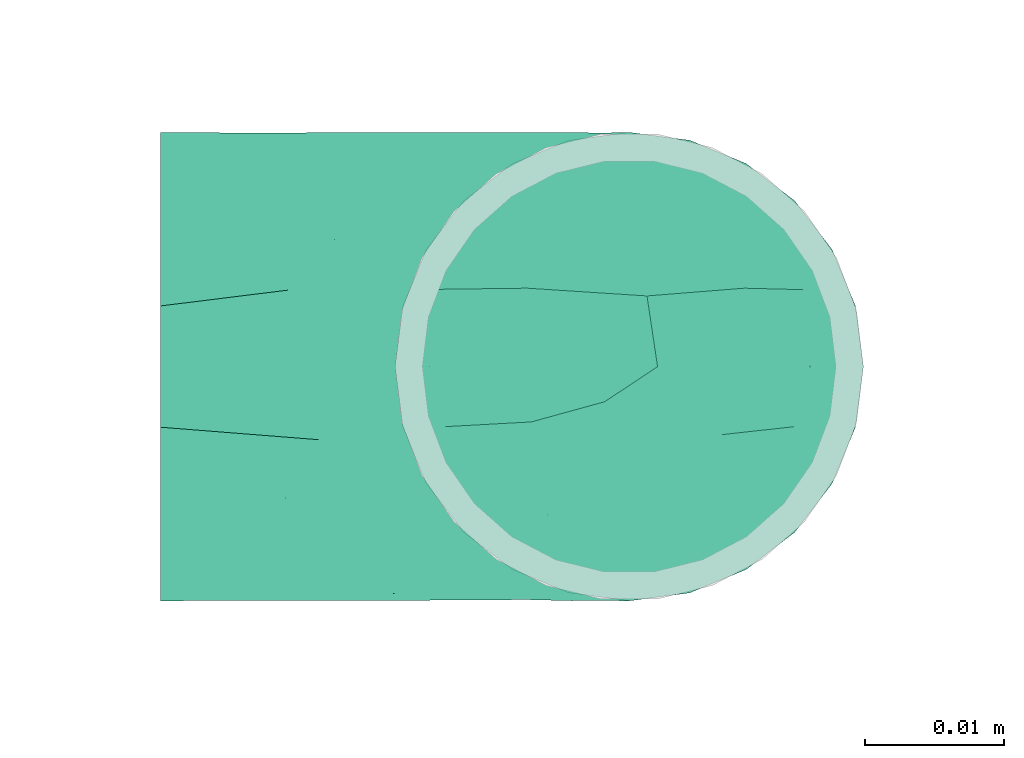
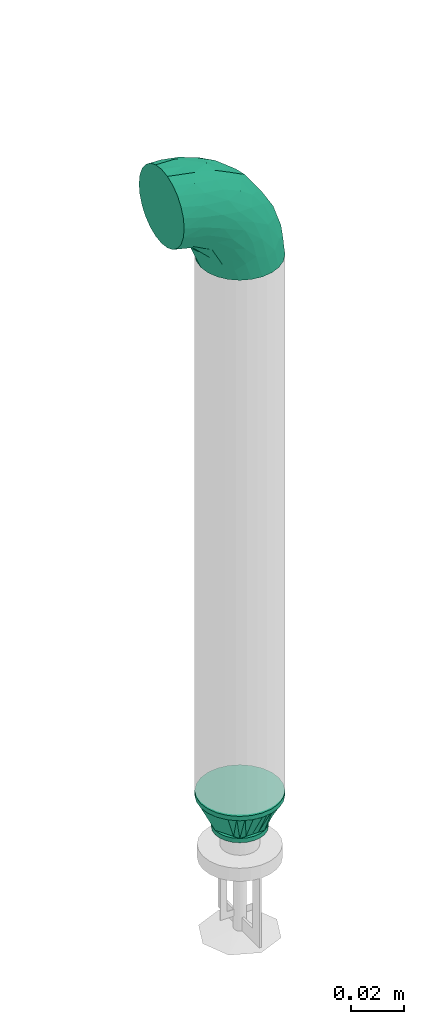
# One storey, part 72 of 157: 2 flow fittings.
"""IFC2X3 building model written with IfcOpenShell, lengths in millimetres."""

from ifc_helpers import new_model, entity, si_unit, converted_unit, derived_unit, direction, frame, origin_with_axes, place, context, subcontext, project, spatial, open_shell, surface_model, source, transform, mapped, type_object, element, save


model = new_model("IFC2X3")

# Units and contexts
model_context = context("Model", 3, precision=0.01, world=frame((0.0, 4.29681676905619e-09, 0.0)), true_north=direction((4.01073788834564e-13, 1.0)))
plan_context = context("Plan", 3, precision=0.01, world=frame((0.0, 4.29681676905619e-09, 0.0)), true_north=direction((4.01073788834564e-13, 1.0)))
body_context = subcontext(model_context, "Body", "Model", "MODEL_VIEW")
ifc_project = project(units=[converted_unit("PLANEANGLEUNIT", "DEGREE", entity("IfcPositiveLengthMeasure", 0.0174532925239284), si_unit("PLANEANGLEUNIT", "RADIAN"), dimensions=[0, 0, 0, 0, 0, 0, 0]), si_unit("AREAUNIT", "SQUARE_METRE"), si_unit("LENGTHUNIT", "METRE", prefix="MILLI"), si_unit("MASSUNIT", "GRAM", prefix="KILO"), si_unit("POWERUNIT", "WATT"), si_unit("PRESSUREUNIT", "PASCAL"), si_unit("FORCEUNIT", "NEWTON", prefix="KILO"), si_unit("ELECTRICCURRENTUNIT", "AMPERE"), si_unit("THERMODYNAMICTEMPERATUREUNIT", "DEGREE_CELSIUS"), si_unit("TIMEUNIT", "SECOND"), si_unit("VOLUMEUNIT", "CUBIC_METRE"), derived_unit("LINEARVELOCITYUNIT", [(si_unit("LENGTHUNIT", "METRE"), 1), (si_unit("TIMEUNIT", "SECOND"), -1)]), derived_unit("VOLUMETRICFLOWRATEUNIT", [(si_unit("VOLUMEUNIT", "CUBIC_METRE"), 1), (si_unit("TIMEUNIT", "SECOND"), -1)]), derived_unit("THERMALTRANSMITTANCEUNIT", [(si_unit("POWERUNIT", "WATT"), 1), (si_unit("THERMODYNAMICTEMPERATUREUNIT", "KELVIN"), -1), (si_unit("AREAUNIT", "SQUARE_METRE"), -1)])], contexts=[model_context, plan_context])

# Site, building, storey
site_placement = place(None, frame((0.0, -4.29681676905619e-09, 0.0), z_axis=(0.0, 0.0, 1.0), x_axis=(1.0, 0.0, 0.0)))
site = spatial("IfcSite", under=ifc_project, at=site_placement, CompositionType="ELEMENT")
building_placement = place(site_placement, frame((0.0, 4.29681676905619e-09, 0.0), z_axis=(0.0, 0.0, 1.0), x_axis=(1.0, 0.0, 0.0)))
building = spatial("IfcBuilding", under=site, at=building_placement, Name="mc-building", CompositionType="ELEMENT")
storey_placement = place(building_placement, frame((0.0, 0.0, 204000.0), z_axis=(0.0, 0.0, 1.0), x_axis=(1.0, 0.0, 0.0)))
storey = spatial("IfcBuildingStorey", under=building, at=storey_placement, Name="Nivå D", CompositionType="ELEMENT", Elevation=204000.0)

# Flow fittings
pipe_fitting_type_1 = type_object("IfcPipeFittingType", Name="magi_pipe_fe_elbow_short_001", PredefinedType="BEND")
shared_shape_1 = source(origin_with_axes(), body_context, "Body", "SurfaceModel", [
    surface_model("IfcShellBasedSurfaceModel", [(-33.8, 8.45, -14.63583), (-33.8, 4.37404, -16.32415), (-33.8, 11.9501, -11.9501), (-33.8, -11.9501, -11.9501), (-33.8, -14.63583, -8.45), (-33.8, -8.45, -14.63583), (-33.8, 0.0, -16.9), (-33.8, -4.37404, -16.32415), (-33.8, -4.37404, 16.32415), (-33.8, 0.0, 16.9), (-33.8, -8.45, 14.63583), (-33.8, 16.32415, -4.37404), (-33.8, 14.63583, -8.45), (-33.8, -16.32415, -4.37404), (-33.8, -16.9, 0.0), (-33.8, -16.32415, 4.37404), (-33.8, 11.9501, 11.9501), (-33.8, 14.63583, 8.45), (-33.8, 16.32415, 4.37404), (-33.8, 4.37404, 16.32415), (-33.8, 8.45, 14.63583), (-33.8, -14.63583, 8.45), (-33.8, -11.9501, 11.9501), (-33.8, 16.9, 0.0), (-11.9501, 33.8, -11.9501), (0.0, 33.8, -16.9), (-4.37404, 33.8, -16.32415), (-8.45, 33.8, -14.63583), (-14.63583, 33.8, -8.45), (-16.32415, 33.8, -4.37404), (14.63583, 33.8, -8.45), (8.45, 33.8, 14.63583), (16.32415, 33.8, -4.37404), (8.45, 33.8, -14.63583), (11.9501, 33.8, -11.9501), (4.37404, 33.8, -16.32415), (16.32415, 33.8, 4.37404), (16.9, 33.8, 0.0), (-11.9501, 33.8, 11.9501), (-16.32415, 33.8, 4.37404), (-14.63583, 33.8, 8.45), (-8.45, 33.8, 14.63583), (-4.37404, 33.8, 16.32415), (11.9501, 33.8, 11.9501), (14.63583, 33.8, 8.45), (0.0, 33.8, 16.9), (4.37404, 33.8, 16.32415), (-16.9, 33.8, 0.0), (-24.79389, -13.12945, 9.48721), (-22.19287, -9.75018, 12.59315), (-24.09897, -14.97035, 0.0), (-14.93934, -10.76256, 8.5297), (-22.46095, -14.75051, 5.27077), (14.75051, 22.46094, 5.27077), (11.9251, 13.23888, 4.33236), (13.04069, 14.39795, 0.0), (7.71387, 13.68847, 11.55891), (9.75018, 22.19287, 12.59315), (4.10169, 13.0571, 14.04018), (-24.84007, -6.39063, 15.2048), (-25.81779, -2.23879, 16.61097), (-23.66549, 2.59054, 16.87119), (-26.50418, 14.06512, 11.08152), (-24.21253, 17.66365, 7.72657), (-29.58514, 15.86957, 7.00283), (-6.17382, -7.5455, 0.0), (-13.23888, -11.9251, 4.33236), (-14.39795, -13.04069, 0.0), (-17.81434, 18.87373, 11.97104), (-6.30846, 29.15138, 15.82987), (-2.31622, 25.28002, 16.85849), (-29.23923, 10.23435, 13.77053), (-1.45439, -2.85688, 7.61475), (-0.28326, 0.34872, 10.09509), (-5.74484, -4.04709, 10.4122), (-4.41137, 11.31918, 16.59407), (-8.39727, 3.10034, 15.7812), (-1.72649, 9.1306, 15.53089), (-17.39909, 24.75344, 7.64977), (-26.19233, 20.0512, 0.0), (-28.14518, 17.29657, 4.25857), (-26.05147, 6.6281, 15.96447), (-5.87354, 16.61944, 16.86968), (-12.51807, 12.51807, 16.48937), (-10.06312, 7.38516, 16.81295), (-3.01882, 3.01882, 13.81718), (-13.0571, -4.10169, 14.04018), (-16.82553, -0.15166, 16.38038), (10.76256, 14.93934, 8.5297), (13.12945, 24.79389, 9.48721), (6.39063, 24.84007, 15.2048), (2.23879, 25.81779, 16.61097), (-13.68847, -7.71387, 11.55891), (14.97035, 24.09897, 0.0), (-7.30894, 22.89991, 16.09489), (-10.67958, 26.17414, 14.008), (-12.78295, 18.26924, 15.06066), (-13.88562, 22.45231, 12.93244), (-18.04944, 15.16501, 14.04434), (-23.11658, 20.08178, 4.02986), (-21.84989, 21.84989, 0.0), (-18.55817, 25.48277, 3.93065), (-13.95142, 26.94732, 11.03289), (-18.57098, 7.23906, 16.59756), (-16.58335, 4.14122, 16.89279), (-17.96666, 11.46709, 15.63151), (-9.84453, 17.54304, 16.18938), (0.15166, 16.82553, 16.38038), (-23.27207, 11.47201, 14.23154), (3.84842, 5.86994, 10.70473), (-8.0212, -7.54413, 7.93275), (1.00345, -2.19508, 4.57414), (5.13203, 3.01004, 5.90201), (5.24161, 1.7543, 2.53265), (8.70457, 7.04947, 3.99182), (-20.0512, 26.19233, 0.0), (8.4852, 8.76699, 7.09296), (-4.55488, -6.72064, 4.90681), (2.05031, -2.05031, 0.0), (7.5455, 6.17382, 0.0), (-26.75399, 2.1369, -16.845), (-14.61995, 24.73803, -11.27736), (-28.45274, -13.45335, -9.81895), (-26.00469, 6.63555, -15.96645), (-23.06726, 20.04573, -4.26202), (-13.80647, -4.26506, -14.17873), (-14.67501, -0.21081, -16.07388), (-6.7902, -0.2828, -13.8478), (-24.53586, 11.08096, -14.13417), (-26.72048, 14.00837, -11.05776), (10.0967, 24.44989, -12.75976), (5.83237, 21.40218, -15.03047), (6.66249, 28.54238, -15.38093), (-20.38182, 15.48705, -12.74596), (12.53268, 21.23441, -9.15363), (12.54494, 15.67504, -5.54878), (9.7522, 12.89279, -8.66343), (-15.65186, 19.64213, -13.01327), (-12.03528, 20.66498, -14.67665), (-15.61907, 15.61906, -14.83879), (-25.56551, -15.26206, 0.0), (-24.65452, -15.12934, -5.50955), (13.45335, 28.45274, -9.81895), (15.12934, 24.65452, -5.50955), (-7.35442, -8.31014, -5.65563), (-15.67504, -12.54494, -5.54878), (-24.44989, -10.0967, -12.75976), (0.16522, 0.41303, -9.71728), (-5.70658, -5.33066, -8.89288), (-5.13869, -2.37198, -11.53565), (-21.23441, -12.53268, -9.15363), (0.71146, 7.93863, -14.09382), (0.21081, 14.67501, -16.07388), (3.49291, 14.42772, -14.76381), (-24.89911, -2.13088, -16.591), (-28.54238, -6.66249, -15.38093), (-18.44386, -7.71663, -13.26957), (2.13088, 24.89911, -16.591), (-28.64342, 17.44413, -2.89318), (1.70017, -1.28722, -5.09504), (-16.57067, 26.81947, -7.36596), (-17.69055, 27.4263, -3.76405), (-12.89279, -9.7522, -8.66343), (-5.96611, 5.96611, -15.95814), (-20.53709, 20.09345, -8.28985), (-2.1369, 26.75399, -16.845), (-6.89872, 24.58781, -16.02578), (-10.60739, 26.53157, -13.98044), (-21.40218, -5.83237, -15.03047), (2.93192, 5.89627, -11.55917), (6.89393, 12.61842, -11.82233), (5.58056, 5.95325, -8.79455), (-3.99512, 18.61798, -16.89635), (8.31014, 7.35442, -5.65563), (-9.1383, 9.86148, -16.89041), (-9.99983, 16.02119, -16.39699), (-16.68576, 9.78031, -16.34199), (-27.01915, 16.61158, -7.12979), (15.26206, 25.56551, 0.0), (-18.61798, 3.99512, -16.89635), (-19.37495, 27.82495, 0.0), (-12.61842, -6.89393, -11.82233), (-18.84705, 19.14018, -10.96545)], [open_shell([[[0, 1, 2]], [[3, 4, 5]], [[6, 7, 5]], [[8, 9, 10]], [[1, 6, 2]], [[11, 12, 2]], [[4, 2, 6]], [[2, 13, 10]], [[5, 4, 6]], [[2, 4, 13]], [[14, 15, 13]], [[11, 2, 16]], [[11, 17, 18]], [[11, 16, 17]], [[19, 20, 16]], [[16, 2, 10]], [[19, 16, 10]], [[21, 22, 15]], [[22, 13, 15]], [[22, 10, 13]], [[10, 9, 19]], [[11, 18, 23]], [[24, 25, 26]], [[24, 26, 27]], [[24, 28, 29]], [[25, 24, 30]], [[31, 32, 24]], [[33, 30, 34]], [[33, 35, 25]], [[25, 30, 33]], [[32, 30, 24]], [[32, 36, 37]], [[38, 24, 29]], [[39, 40, 29]], [[40, 38, 29]], [[38, 41, 42]], [[38, 31, 24]], [[31, 38, 42]], [[36, 43, 44]], [[36, 32, 43]], [[31, 45, 46]], [[32, 31, 43]], [[42, 45, 31]], [[39, 29, 47]], [[22, 48, 49]], [[15, 14, 50]], [[51, 48, 52]], [[53, 54, 55]], [[48, 22, 21]], [[15, 52, 21]], [[56, 57, 58]], [[49, 10, 22]], [[49, 59, 10]], [[9, 60, 61]], [[62, 63, 64]], [[65, 66, 67]], [[57, 43, 31]], [[62, 68, 63]], [[42, 69, 70]], [[20, 71, 16]], [[8, 60, 9]], [[72, 73, 74]], [[75, 76, 77]], [[16, 62, 17]], [[40, 39, 78]], [[79, 23, 80]], [[64, 18, 17]], [[9, 61, 19]], [[19, 81, 20]], [[82, 83, 84]], [[74, 85, 86]], [[59, 86, 87]], [[88, 89, 57]], [[90, 31, 46]], [[44, 53, 36]], [[46, 45, 91]], [[54, 53, 88]], [[44, 89, 53]], [[92, 86, 49]], [[89, 44, 43]], [[10, 59, 8]], [[53, 55, 93]], [[93, 36, 53]], [[66, 52, 67]], [[94, 82, 70]], [[95, 96, 94]], [[97, 98, 96]], [[79, 99, 100]], [[41, 38, 95]], [[101, 100, 99]], [[68, 78, 63]], [[42, 41, 69]], [[23, 18, 80]], [[95, 94, 69]], [[78, 101, 99]], [[38, 102, 95]], [[70, 45, 42]], [[97, 95, 102]], [[15, 50, 52]], [[90, 57, 31]], [[57, 90, 58]], [[81, 19, 61]], [[103, 104, 84]], [[105, 81, 103]], [[38, 40, 102]], [[106, 96, 83]], [[94, 106, 82]], [[91, 70, 107]], [[71, 62, 16]], [[62, 108, 98]], [[86, 59, 49]], [[67, 52, 50]], [[60, 59, 87]], [[92, 49, 51]], [[86, 85, 76]], [[91, 90, 46]], [[37, 36, 93]], [[107, 77, 58]], [[107, 58, 90]], [[58, 85, 109]], [[110, 74, 92]], [[72, 74, 110]], [[66, 51, 52]], [[72, 111, 112]], [[113, 114, 112]], [[56, 88, 57]], [[52, 48, 21]], [[49, 48, 51]], [[57, 89, 43]], [[53, 89, 88]], [[103, 81, 61]], [[71, 81, 108]], [[18, 64, 80]], [[63, 78, 99]], [[47, 115, 101]], [[101, 115, 100]], [[40, 78, 102]], [[68, 102, 78]], [[97, 96, 95]], [[105, 98, 108]], [[103, 84, 83]], [[107, 70, 82]], [[76, 84, 87]], [[82, 84, 75]], [[70, 91, 45]], [[90, 91, 107]], [[59, 60, 8]], [[61, 60, 87]], [[73, 85, 74]], [[109, 112, 116]], [[103, 61, 104]], [[105, 103, 83]], [[96, 105, 83]], [[81, 105, 108]], [[96, 98, 105]], [[62, 98, 68]], [[61, 87, 104]], [[87, 84, 104]], [[86, 76, 87]], [[77, 76, 85]], [[58, 77, 85]], [[75, 77, 107]], [[82, 75, 107]], [[76, 75, 84]], [[81, 71, 20]], [[62, 71, 108]], [[95, 69, 41]], [[70, 69, 94]], [[62, 64, 17]], [[80, 63, 99]], [[63, 80, 64]], [[80, 99, 79]], [[66, 65, 117]], [[110, 66, 117]], [[112, 114, 116]], [[118, 117, 65]], [[110, 92, 51]], [[112, 111, 113]], [[119, 55, 54]], [[74, 86, 92]], [[58, 109, 56]], [[116, 56, 109]], [[66, 110, 51]], [[72, 110, 117]], [[111, 72, 117]], [[73, 112, 109]], [[117, 118, 111]], [[113, 111, 118]], [[118, 119, 113]], [[114, 119, 54]], [[119, 114, 113]], [[116, 54, 88]], [[54, 116, 114]], [[116, 88, 56]], [[112, 73, 72]], [[85, 73, 109]], [[78, 39, 101]], [[47, 101, 39]], [[102, 68, 97]], [[97, 68, 98]], [[82, 106, 83]], [[94, 96, 106]], [[1, 120, 6]], [[28, 24, 121]], [[3, 122, 4]], [[0, 123, 1]], [[100, 124, 79]], [[125, 126, 127]], [[128, 2, 129]], [[130, 131, 132]], [[128, 129, 133]], [[134, 135, 136]], [[137, 138, 139]], [[128, 0, 2]], [[67, 140, 141]], [[134, 142, 143]], [[141, 13, 4]], [[144, 65, 145]], [[146, 3, 5]], [[147, 148, 149]], [[145, 141, 150]], [[151, 152, 153]], [[154, 7, 6]], [[5, 155, 146]], [[150, 146, 156]], [[155, 5, 7]], [[143, 135, 134]], [[35, 157, 25]], [[23, 79, 158]], [[148, 159, 144]], [[160, 161, 29]], [[145, 162, 144]], [[163, 152, 151]], [[29, 28, 160]], [[121, 164, 160]], [[33, 34, 130]], [[25, 165, 26]], [[26, 165, 166]], [[142, 34, 30]], [[24, 27, 167]], [[124, 161, 164]], [[157, 35, 132]], [[155, 154, 168]], [[123, 0, 128]], [[169, 170, 171]], [[172, 157, 152]], [[26, 166, 27]], [[132, 35, 33]], [[142, 130, 34]], [[168, 154, 126]], [[136, 135, 173]], [[133, 137, 139]], [[2, 12, 129]], [[170, 131, 130]], [[30, 32, 143]], [[172, 174, 175]], [[176, 123, 128]], [[158, 177, 11]], [[135, 55, 119]], [[167, 27, 166]], [[175, 166, 172]], [[137, 167, 138]], [[122, 141, 4]], [[140, 14, 13]], [[32, 37, 178]], [[170, 130, 134]], [[152, 157, 131]], [[165, 157, 172]], [[153, 170, 151]], [[152, 163, 174]], [[168, 125, 156]], [[122, 146, 150]], [[120, 154, 6]], [[179, 174, 126]], [[179, 126, 154]], [[126, 163, 127]], [[162, 145, 150]], [[140, 13, 141]], [[32, 178, 143]], [[55, 143, 178]], [[177, 129, 12]], [[128, 133, 139]], [[176, 128, 139]], [[120, 123, 179]], [[121, 160, 28]], [[161, 100, 180]], [[166, 175, 138]], [[121, 24, 167]], [[161, 47, 29]], [[79, 124, 158]], [[124, 164, 177]], [[161, 124, 100]], [[136, 171, 170]], [[127, 163, 151]], [[147, 171, 159]], [[148, 144, 162]], [[127, 151, 169]], [[127, 181, 125]], [[129, 177, 164]], [[12, 11, 177]], [[159, 65, 144]], [[67, 141, 145]], [[143, 55, 135]], [[135, 119, 173]], [[123, 120, 1]], [[154, 120, 179]], [[157, 165, 25]], [[166, 165, 172]], [[172, 152, 174]], [[176, 139, 175]], [[126, 174, 163]], [[176, 174, 179]], [[174, 176, 175]], [[123, 176, 179]], [[150, 181, 162]], [[127, 149, 181]], [[181, 148, 162]], [[159, 148, 147]], [[171, 136, 173]], [[170, 134, 136]], [[159, 171, 173]], [[171, 147, 169]], [[169, 147, 149]], [[151, 170, 169]], [[164, 182, 129]], [[182, 121, 137]], [[181, 149, 148]], [[169, 149, 127]], [[182, 137, 133]], [[167, 137, 121]], [[166, 138, 167]], [[175, 139, 138]], [[129, 182, 133]], [[121, 182, 164]], [[161, 160, 164]], [[47, 161, 180]], [[177, 158, 124]], [[23, 158, 11]], [[130, 132, 33]], [[157, 132, 131]], [[143, 142, 30]], [[130, 142, 134]], [[154, 155, 7]], [[146, 155, 168]], [[146, 122, 3]], [[141, 122, 150]], [[152, 131, 153]], [[159, 119, 118]], [[67, 145, 65]], [[170, 153, 131]], [[119, 159, 173]], [[159, 118, 65]], [[156, 125, 181]], [[126, 125, 168]], [[150, 156, 181]], [[168, 156, 146]]])]),
])
flow_fitting_1_placement = place(storey_placement, frame((518179.00142, 415184.37004, 2690.0), z_axis=(0.0, -1.0, 0.0), x_axis=(0.0, 0.0, 1.0)))
element("IfcFlowFitting", 1, at=flow_fitting_1_placement, inside=storey, type_object=pipe_fitting_type_1, Name="magi_pipe_fe_elbow_short_001", context=body_context, shape_type="MappedRepresentation", body=[
    mapped(shared_shape_1, transform((0.0, 0.0, 0.0), scale=1.0)),
])
pipe_fitting_type_2 = type_object("IfcPipeFittingType", Name="magi_pipe_fe_reducer_centric_short_NOR", PredefinedType="TRANSITION")
shared_shape_2 = source(origin_with_axes(), body_context, "Body", "SurfaceModel", [
    surface_model("IfcShellBasedSurfaceModel", [(-2.0, -7.56604, -7.56604), (-2.0, -10.33541, -2.76936), (-2.0, -5.35, -9.26647), (-2.0, 5.35, -9.26647), (-2.0, 10.33541, -2.76936), (-2.0, 7.56604, -7.56604), (12.4, 11.9501, 11.9501), (12.4, 0.0, 16.9), (12.4, 11.9501, -11.9501), (12.4, 16.9, 0.0), (0.0, -10.7, 0.0), (0.0, -5.35, 9.26647), (0.0, -5.35, -9.26647), (0.0, 10.7, 0.0), (12.4, 15.66253, -2.98753), (12.4, 8.96258, -13.18758), (0.0, 6.6875, -6.94985), (12.4, -15.66253, -2.98753), (12.4, -16.9, 0.0), (12.4, 5.97505, -14.42505), (0.0, 5.35, -9.26647), (12.4, 14.42505, -5.97505), (0.0, 8.025, -4.63324), (0.0, 9.3625, -2.31662), (0.0, -9.3625, -2.31662), (0.0, -8.025, -4.63324), (12.4, -14.42505, -5.97505), (12.4, 13.18758, -8.96258), (12.4, -13.18758, -8.96258), (12.4, -11.9501, -11.9501), (0.0, -6.6875, -6.94985), (12.4, -8.96258, -13.18758), (12.4, -5.97505, -14.42505), (12.4, -15.66253, 2.98753), (12.4, -8.96258, 13.18758), (0.0, -6.6875, 6.94985), (12.4, -11.9501, 11.9501), (12.4, 15.66253, 2.98753), (12.4, -5.97505, 14.42505), (12.4, -14.42505, 5.97505), (0.0, -8.025, 4.63324), (0.0, -9.3625, 2.31662), (0.0, 9.3625, 2.31662), (0.0, 8.025, 4.63324), (12.4, 14.42505, 5.97505), (12.4, -13.18758, 8.96258), (12.4, 13.18758, 8.96258), (0.0, 6.6875, 6.94985), (12.4, 8.96258, 13.18758), (0.0, 5.35, 9.26647), (12.4, 5.97505, 14.42505), (14.4, 4.37404, -16.32415), (14.4, 8.45, -14.63583), (14.4, 11.9501, -11.9501), (14.4, -8.45, -14.63583), (14.4, 16.32415, -4.37404), (14.4, 16.32415, 4.37404), (14.4, 14.63583, -8.45), (14.4, 0.0, -16.9), (14.4, -4.37404, -16.32415), (14.4, -11.9501, -11.9501), (14.4, -16.32415, -4.37404), (14.4, -14.63583, -8.45), (14.4, -16.32415, 4.37404), (14.4, 16.9, 0.0), (14.4, 14.63583, 8.45), (14.4, 11.9501, 11.9501), (14.4, 4.37404, 16.32415), (14.4, 8.45, 14.63583), (14.4, 0.0, 16.9), (14.4, -14.63583, 8.45), (14.4, -16.9, 0.0), (14.4, -8.45, 14.63583), (14.4, -11.9501, 11.9501), (14.4, -4.37404, 16.32415), (12.4, 4.37404, 16.32415), (12.4, -14.63583, 8.45), (12.4, 16.32415, 4.37404), (12.4, 8.45, 14.63583), (12.4, 14.63583, 8.45), (12.4, -8.45, 14.63583), (12.4, -4.37404, 16.32415), (12.4, -16.32415, 4.37404), (12.4, -16.32415, -4.37404), (12.4, -8.45, -14.63583), (12.4, 16.32415, -4.37404), (12.4, 14.63583, -8.45), (12.4, 8.45, -14.63583), (12.4, 4.37404, -16.32415), (12.4, 0.0, -16.9), (12.4, -14.63583, -8.45), (12.4, -4.37404, -16.32415), (-2.0, 2.76936, 10.33541), (-2.0, 0.0, 10.7), (-2.0, 5.35, 9.26647), (-2.0, 7.56604, 7.56604), (-2.0, 9.26647, 5.35), (-2.0, 10.33541, 2.76936), (-2.0, -10.33541, 2.76936), (-2.0, -2.76936, 10.33541), (-2.0, -7.56604, 7.56604), (-2.0, -5.35, 9.26647), (-2.0, -9.26647, 5.35), (-2.0, -10.7, 0.0), (-2.0, 9.26647, -5.35), (-2.0, 2.76936, -10.33541), (-2.0, -9.26647, -5.35), (-2.0, 0.0, -10.7), (-2.0, -2.76936, -10.33541), (-2.0, 10.7, 0.0), (0.0, 0.0, -10.7), (0.0, 2.76936, -10.33541), (0.0, 10.33541, -2.76936), (0.0, 7.56604, -7.56604), (0.0, -10.33541, -2.76936), (0.0, 9.26647, -5.35), (0.0, 0.0, 10.7), (0.0, -2.76936, -10.33541), (0.0, -7.56604, -7.56604), (0.0, -9.26647, -5.35), (0.0, 10.33541, 2.76936), (0.0, 9.26647, 5.35), (0.0, 7.56604, 7.56604), (0.0, 2.76936, 10.33541), (0.0, -7.56604, 7.56604), (0.0, -10.33541, 2.76936), (0.0, -9.26647, 5.35), (0.0, -2.76936, 10.33541), (0.0, 2.675, -9.26647), (0.0, -2.675, -9.26647), (12.4, 2.98753, -15.66253), (0.0, 0.0, -9.26647), (12.4, -2.98753, -15.66253), (0.0, -2.675, 9.26647), (0.0, 2.675, 9.26647), (12.4, -2.98753, 15.66253), (0.0, 0.0, 9.26647), (12.4, 2.98753, 15.66253)], [open_shell([[[0, 1, 2]], [[3, 4, 5]], [[6, 7, 8]], [[8, 9, 6]], [[10, 11, 12]], [[13, 9, 14]], [[15, 16, 8]], [[17, 18, 10]], [[15, 19, 20]], [[21, 22, 23]], [[24, 25, 26]], [[22, 21, 27]], [[28, 26, 25]], [[29, 30, 31]], [[12, 32, 31]], [[10, 18, 33]], [[34, 35, 36]], [[37, 9, 13]], [[34, 38, 11]], [[39, 40, 41]], [[42, 43, 44]], [[40, 39, 45]], [[46, 44, 43]], [[6, 47, 48]], [[49, 50, 48]], [[51, 52, 53]], [[54, 51, 53]], [[53, 55, 56]], [[55, 53, 57]], [[53, 56, 54]], [[58, 54, 59]], [[58, 51, 54]], [[60, 61, 62]], [[61, 60, 54]], [[54, 63, 61]], [[56, 55, 64]], [[56, 65, 66]], [[56, 66, 67]], [[67, 63, 54]], [[67, 66, 68]], [[63, 67, 69]], [[69, 70, 63]], [[71, 61, 63]], [[70, 72, 73]], [[70, 69, 72]], [[72, 69, 74]], [[54, 56, 67]], [[75, 76, 7]], [[77, 75, 78]], [[6, 79, 77]], [[6, 77, 78]], [[76, 75, 77]], [[80, 76, 36]], [[80, 81, 7]], [[7, 76, 80]], [[82, 76, 77]], [[82, 83, 18]], [[82, 77, 84]], [[77, 85, 8]], [[8, 85, 86]], [[8, 87, 88]], [[84, 77, 8]], [[88, 89, 8]], [[83, 29, 90]], [[29, 83, 84]], [[84, 89, 91]], [[83, 82, 84]], [[8, 89, 84]], [[85, 77, 9]], [[83, 61, 18]], [[90, 62, 83]], [[54, 29, 84]], [[90, 29, 60]], [[59, 84, 91]], [[83, 62, 61]], [[61, 71, 18]], [[59, 54, 84]], [[60, 29, 54]], [[60, 62, 90]], [[58, 59, 91]], [[91, 89, 58]], [[88, 51, 89]], [[87, 52, 88]], [[57, 8, 86]], [[87, 8, 53]], [[55, 86, 85]], [[87, 53, 52]], [[52, 51, 88]], [[64, 55, 85]], [[57, 86, 55]], [[57, 53, 8]], [[9, 64, 85]], [[89, 51, 58]], [[77, 56, 9]], [[79, 65, 77]], [[68, 6, 78]], [[79, 6, 66]], [[67, 78, 75]], [[77, 65, 56]], [[56, 64, 9]], [[67, 68, 78]], [[66, 6, 68]], [[66, 65, 79]], [[69, 67, 75]], [[75, 7, 69]], [[81, 74, 7]], [[80, 72, 81]], [[70, 36, 76]], [[80, 36, 73]], [[63, 76, 82]], [[80, 73, 72]], [[72, 74, 81]], [[71, 63, 82]], [[70, 76, 63]], [[70, 73, 36]], [[18, 71, 82]], [[7, 74, 69]], [[92, 1, 93]], [[94, 1, 92]], [[95, 96, 97]], [[95, 97, 94]], [[98, 93, 1]], [[99, 100, 101]], [[99, 93, 100]], [[100, 98, 102]], [[93, 98, 100]], [[98, 1, 103]], [[94, 97, 1]], [[1, 97, 4]], [[5, 4, 104]], [[4, 3, 1]], [[105, 1, 3]], [[1, 0, 106]], [[2, 107, 108]], [[2, 1, 105]], [[105, 107, 2]], [[4, 97, 109]], [[20, 110, 111]], [[112, 20, 113]], [[114, 20, 112]], [[112, 113, 115]], [[116, 114, 112]], [[110, 12, 117]], [[110, 20, 12]], [[118, 114, 119]], [[114, 118, 12]], [[20, 114, 12]], [[112, 13, 120]], [[120, 121, 122]], [[120, 122, 123]], [[116, 112, 123]], [[123, 122, 49]], [[116, 124, 114]], [[125, 124, 126]], [[10, 114, 125]], [[124, 127, 11]], [[125, 114, 124]], [[127, 124, 116]], [[123, 112, 120]], [[1, 114, 103]], [[106, 119, 1]], [[12, 0, 2]], [[106, 0, 118]], [[117, 2, 108]], [[1, 119, 114]], [[114, 10, 103]], [[117, 12, 2]], [[118, 0, 12]], [[118, 119, 106]], [[110, 117, 108]], [[108, 107, 110]], [[105, 111, 107]], [[3, 20, 105]], [[115, 5, 104]], [[3, 5, 113]], [[112, 104, 4]], [[3, 113, 20]], [[20, 111, 105]], [[13, 112, 4]], [[115, 104, 112]], [[115, 113, 5]], [[109, 13, 4]], [[107, 111, 110]], [[97, 120, 109]], [[96, 121, 97]], [[49, 95, 94]], [[96, 95, 122]], [[123, 94, 92]], [[97, 121, 120]], [[120, 13, 109]], [[123, 49, 94]], [[122, 95, 49]], [[122, 121, 96]], [[116, 123, 92]], [[92, 93, 116]], [[99, 127, 93]], [[101, 11, 99]], [[126, 100, 102]], [[101, 100, 124]], [[125, 102, 98]], [[101, 124, 11]], [[11, 127, 99]], [[10, 125, 98]], [[126, 102, 125]], [[126, 124, 100]], [[103, 10, 98]], [[93, 127, 116]], [[18, 7, 36]], [[18, 29, 8]], [[89, 8, 29]], [[18, 8, 7]], [[13, 11, 49]], [[13, 20, 12]], [[13, 12, 11]], [[24, 26, 17]], [[10, 24, 17]], [[16, 15, 20]], [[30, 12, 31]], [[23, 14, 21]], [[19, 128, 20]], [[27, 8, 16]], [[32, 12, 129]], [[30, 28, 25]], [[130, 131, 128]], [[129, 132, 32]], [[16, 22, 27]], [[13, 14, 23]], [[128, 19, 130]], [[130, 89, 131]], [[131, 132, 129]], [[89, 132, 131]], [[28, 30, 29]], [[42, 44, 37]], [[13, 42, 37]], [[35, 34, 11]], [[47, 49, 48]], [[41, 33, 39]], [[38, 133, 11]], [[45, 36, 35]], [[50, 49, 134]], [[47, 46, 43]], [[135, 136, 133]], [[134, 137, 50]], [[35, 40, 45]], [[10, 33, 41]], [[133, 38, 135]], [[135, 7, 136]], [[136, 137, 134]], [[7, 137, 136]], [[46, 47, 6]]])]),
])
flow_fitting_2_placement = place(storey_placement, frame((518179.00142, 415184.37012, 2396.95199999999), z_axis=(0.0, -1.0, 0.0), x_axis=(0.0, 0.0, 1.0)))
element("IfcFlowFitting", 2, at=flow_fitting_2_placement, inside=storey, type_object=pipe_fitting_type_2, Name="magi_pipe_fe_reducer_centric_short_NOR", context=body_context, shape_type="MappedRepresentation", body=[
    mapped(shared_shape_2, transform((0.0, 0.0, 0.0), scale=1.0)),
])

save(model, "model.ifc")
